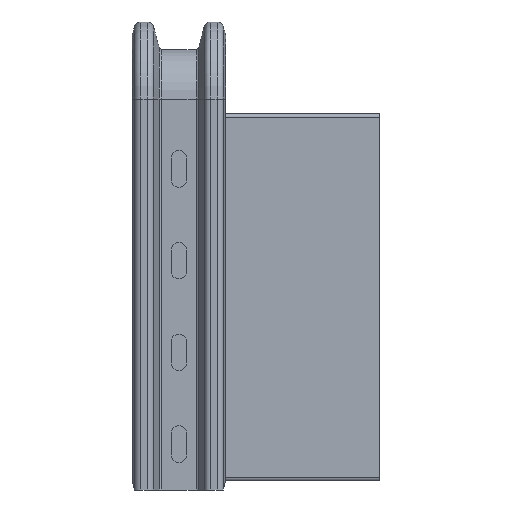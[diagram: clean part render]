
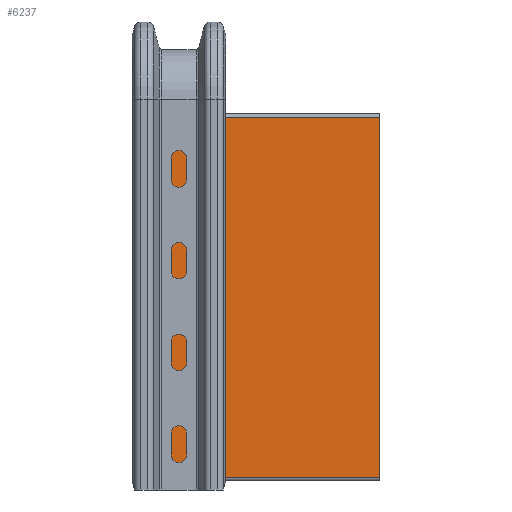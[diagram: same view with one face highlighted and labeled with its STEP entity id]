
A CAD part, front view. The second image highlights one B-rep face of the part: STEP entity #6237.
In plain terms, the highlighted planar face has unit normal (0, -1, 0).
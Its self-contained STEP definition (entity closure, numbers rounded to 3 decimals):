
#182 = VECTOR ( 'NONE', #10178, 1000. ) ;
#244 = DIRECTION ( 'NONE',  ( 0., 0., 1. ) ) ;
#319 = EDGE_CURVE ( 'NONE', #8102, #10289, #1837, .T. ) ;
#716 = EDGE_LOOP ( 'NONE', ( #5647, #7648, #9848, #9626 ) ) ;
#1430 = CARTESIAN_POINT ( 'NONE',  ( 1.9, 0., -125. ) ) ;
#1437 = VERTEX_POINT ( 'NONE', #3181 ) ;
#1500 = EDGE_CURVE ( 'NONE', #1437, #8102, #2493, .T. ) ;
#1837 = LINE ( 'NONE', #2838, #8494 ) ;
#2493 = LINE ( 'NONE', #9329, #182 ) ;
#2659 = VECTOR ( 'NONE', #3462, 1000. ) ;
#2838 = CARTESIAN_POINT ( 'NONE',  ( 198.1, 0., -125. ) ) ;
#2933 = LINE ( 'NONE', #7786, #2659 ) ;
#3022 = VECTOR ( 'NONE', #10135, 1000. ) ;
#3181 = CARTESIAN_POINT ( 'NONE',  ( 1.9, 0., -125. ) ) ;
#3288 = LINE ( 'NONE', #1430, #3022 ) ;
#3462 = DIRECTION ( 'NONE',  ( 1., 0., 0. ) ) ;
#3805 = VERTEX_POINT ( 'NONE', #4774 ) ;
#3849 = EDGE_CURVE ( 'NONE', #1437, #3805, #3288, .T. ) ;
#4320 = DIRECTION ( 'NONE',  ( 0., 0., -1. ) ) ;
#4774 = CARTESIAN_POINT ( 'NONE',  ( 1.9, 0., 0. ) ) ;
#5647 = ORIENTED_EDGE ( 'NONE', *, *, #10967, .F. ) ;
#5709 = AXIS2_PLACEMENT_3D ( 'NONE', #11211, #9516, #4320 ) ;
#6237 = ADVANCED_FACE ( 'NONE', ( #7209 ), #7767, .T. ) ;
#7209 = FACE_OUTER_BOUND ( 'NONE', #716, .T. ) ;
#7648 = ORIENTED_EDGE ( 'NONE', *, *, #3849, .F. ) ;
#7684 = CARTESIAN_POINT ( 'NONE',  ( 198.1, 0., 0. ) ) ;
#7767 = PLANE ( 'NONE',  #5709 ) ;
#7786 = CARTESIAN_POINT ( 'NONE',  ( 0., 0., 0. ) ) ;
#8102 = VERTEX_POINT ( 'NONE', #9601 ) ;
#8494 = VECTOR ( 'NONE', #244, 1000. ) ;
#9329 = CARTESIAN_POINT ( 'NONE',  ( 0., 0., -125. ) ) ;
#9516 = DIRECTION ( 'NONE',  ( 0., -1., 0. ) ) ;
#9601 = CARTESIAN_POINT ( 'NONE',  ( 198.1, 0., -125. ) ) ;
#9626 = ORIENTED_EDGE ( 'NONE', *, *, #319, .T. ) ;
#9848 = ORIENTED_EDGE ( 'NONE', *, *, #1500, .T. ) ;
#10135 = DIRECTION ( 'NONE',  ( 0., 0., 1. ) ) ;
#10178 = DIRECTION ( 'NONE',  ( 1., 0., 0. ) ) ;
#10289 = VERTEX_POINT ( 'NONE', #7684 ) ;
#10967 = EDGE_CURVE ( 'NONE', #3805, #10289, #2933, .T. ) ;
#11211 = CARTESIAN_POINT ( 'NONE',  ( 0., 0., -125. ) ) ;
